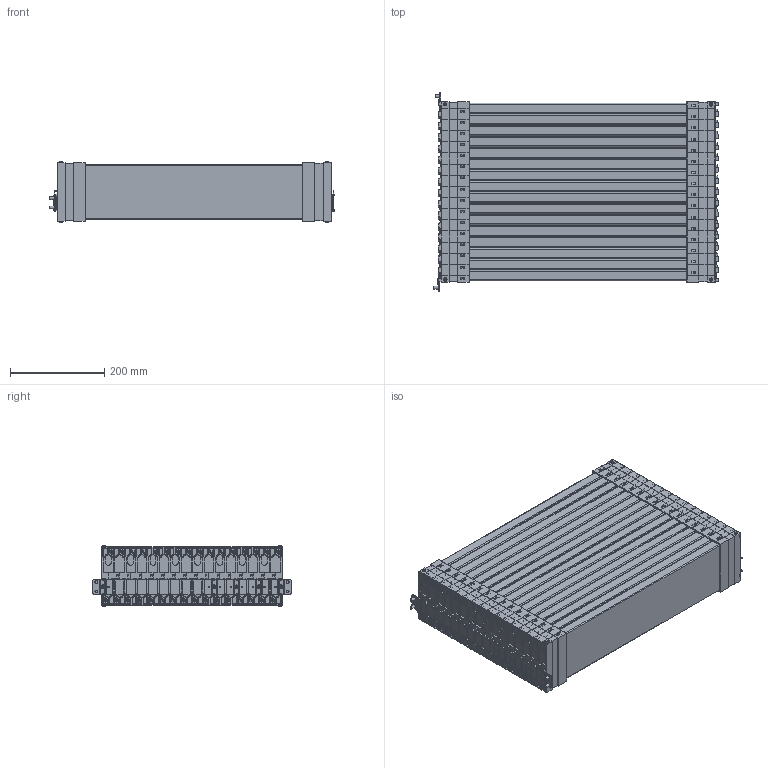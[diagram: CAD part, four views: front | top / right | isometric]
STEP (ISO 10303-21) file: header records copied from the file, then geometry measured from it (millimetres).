
FILE_DESCRIPTION(/* description */ (''),/* implementation_level */ '2;1');
FILE_NAME(/* name */ '184-1X16.stp',/* time_stamp */ '2022-07-06T17:24:16+08:00',/* author */ (''),/* organization */ (''),/* preprocessor_version */ 'ST-DEVELOPER v16.7',/* originating_system */ 'SIEMENS PLM Software NX 12.0',/* authorisation */ '');
FILE_SCHEMA (('AUTOMOTIVE_DESIGN { 1 0 10303 214 3 1 1 1 }'));
Products named in the file (1): 184-16_stp
Bounding box: 602.3 x 419.5 x 127.6 mm (x, y, z)
Volume: 24390702.7 mm3; surface area: 3503924 mm2
Topology: 59 solids, 59 shells, 7550 faces, 22133 edges, 14718 vertices
Faces by surface type: plane 5851, cylinder 1666, cone 33
Full cylindrical faces by diameter (mm): 3 x16, 4 x9, 6 x4, 6.5 x4, 7 x4, 8 x9
Entity records: 249112 total; most frequent: CARTESIAN_POINT 44241, ORIENTED_EDGE 44026, DIRECTION 40680, EDGE_CURVE 22013, LINE 18448, VECTOR 18448, VERTEX_POINT 14677, AXIS2_PLACEMENT_3D 11116
